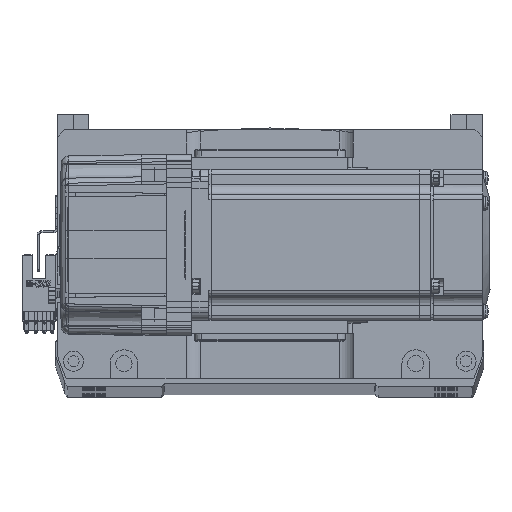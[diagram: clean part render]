
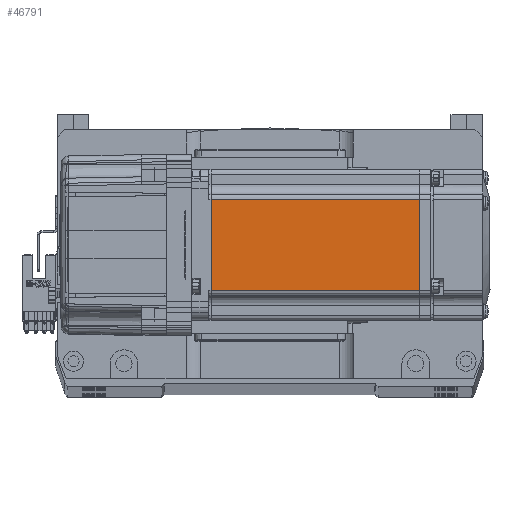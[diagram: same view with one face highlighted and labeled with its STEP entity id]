
A CAD part, top view. The second image highlights one B-rep face of the part: STEP entity #46791.
In plain terms, the highlighted planar face has unit normal (0, 0, 1) as drawn and (0, -1, 0) by its records, which use the part's own axes.
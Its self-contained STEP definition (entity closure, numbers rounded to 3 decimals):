
#689 = EDGE_CURVE ( 'NONE', #66142, #61416, #48825, .T. ) ;
#3409 = DIRECTION ( 'NONE',  ( 0., -1., 0. ) ) ;
#3755 = VECTOR ( 'NONE', #28912, 1000. ) ;
#6873 = ORIENTED_EDGE ( 'NONE', *, *, #689, .T. ) ;
#8716 = VECTOR ( 'NONE', #15951, 1000. ) ;
#11220 = LINE ( 'NONE', #12739, #3755 ) ;
#11776 = EDGE_CURVE ( 'NONE', #50035, #66142, #11220, .T. ) ;
#12739 = CARTESIAN_POINT ( 'NONE',  ( -90.45, -30., -25. ) ) ;
#15951 = DIRECTION ( 'NONE',  ( 0., 0., 1. ) ) ;
#20266 = CARTESIAN_POINT ( 'NONE',  ( -6.5, -30., -25. ) ) ;
#24551 = CARTESIAN_POINT ( 'NONE',  ( -6.5, -30., 18. ) ) ;
#25632 = CARTESIAN_POINT ( 'NONE',  ( -7.75, -30., -18. ) ) ;
#26897 = CARTESIAN_POINT ( 'NONE',  ( -7.75, -30., 18. ) ) ;
#28839 = AXIS2_PLACEMENT_3D ( 'NONE', #20266, #3409, #56560 ) ;
#28912 = DIRECTION ( 'NONE',  ( 0., 0., -1. ) ) ;
#29627 = ORIENTED_EDGE ( 'NONE', *, *, #46370, .T. ) ;
#32043 = DIRECTION ( 'NONE',  ( 1., 0., 0. ) ) ;
#37207 = LINE ( 'NONE', #24551, #51248 ) ;
#40073 = LINE ( 'NONE', #58029, #8716 ) ;
#41037 = PLANE ( 'NONE',  #28839 ) ;
#44044 = ORIENTED_EDGE ( 'NONE', *, *, #11776, .T. ) ;
#45317 = DIRECTION ( 'NONE',  ( -1., 0., 0. ) ) ;
#46370 = EDGE_CURVE ( 'NONE', #59381, #50035, #37207, .T. ) ;
#46791 = ADVANCED_FACE ( 'NONE', ( #60375 ), #41037, .T. ) ;
#48825 = LINE ( 'NONE', #64147, #64588 ) ;
#50035 = VERTEX_POINT ( 'NONE', #62036 ) ;
#51248 = VECTOR ( 'NONE', #45317, 1000. ) ;
#53534 = ORIENTED_EDGE ( 'NONE', *, *, #62992, .T. ) ;
#55797 = EDGE_LOOP ( 'NONE', ( #53534, #29627, #44044, #6873 ) ) ;
#55884 = CARTESIAN_POINT ( 'NONE',  ( -90.45, -30., -18. ) ) ;
#56560 = DIRECTION ( 'NONE',  ( 0., 0., -1. ) ) ;
#58029 = CARTESIAN_POINT ( 'NONE',  ( -7.75, -30., -25. ) ) ;
#59381 = VERTEX_POINT ( 'NONE', #26897 ) ;
#60375 = FACE_OUTER_BOUND ( 'NONE', #55797, .T. ) ;
#61416 = VERTEX_POINT ( 'NONE', #25632 ) ;
#62036 = CARTESIAN_POINT ( 'NONE',  ( -90.45, -30., 18. ) ) ;
#62992 = EDGE_CURVE ( 'NONE', #61416, #59381, #40073, .T. ) ;
#64147 = CARTESIAN_POINT ( 'NONE',  ( -6.5, -30., -18. ) ) ;
#64588 = VECTOR ( 'NONE', #32043, 1000. ) ;
#66142 = VERTEX_POINT ( 'NONE', #55884 ) ;
